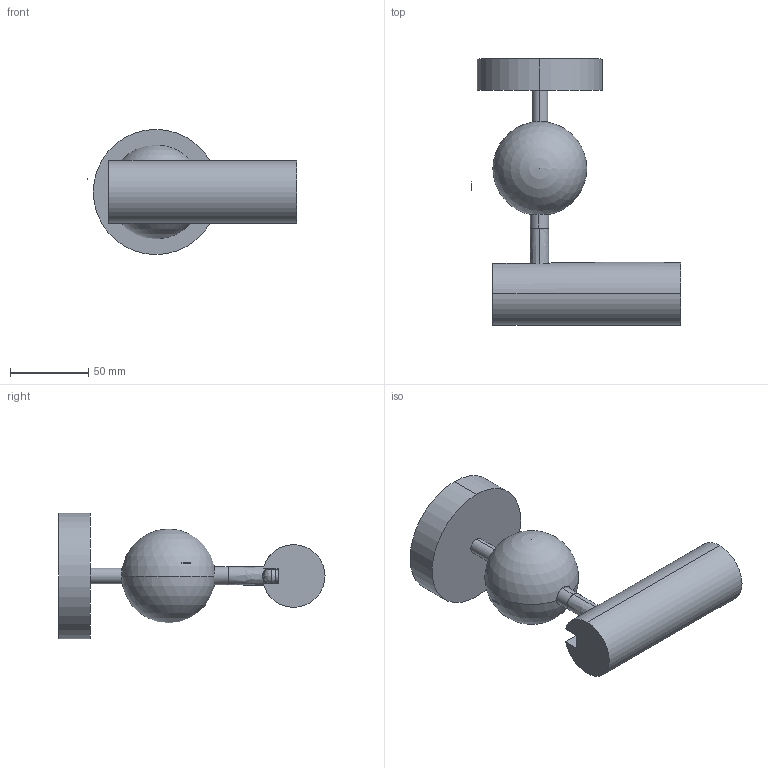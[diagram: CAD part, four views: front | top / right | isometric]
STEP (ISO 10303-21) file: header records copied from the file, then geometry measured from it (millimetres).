
FILE_DESCRIPTION (( 'STEP AP214' ), '1' );
FILE_NAME ('FOCO1_ROTULA.STEP', '2026-08-28T09:28:25', ( '' ), ( '' ), 'SwSTEP 2.0', 'SolidWorks 2023', '' );
FILE_SCHEMA (( 'AUTOMOTIVE_DESIGN' ));
Length unit declared in the file: millimetre
Products named in the file (3): FOCO1_ROTULA; rotula; foco1.1
Assembly tree (2 placements, depth 2):
  FOCO1_ROTULA
    foco1.1
    rotula
Bounding box: 133.81 x 170 x 80 mm (x, y, z)
Volume: 273458.4 mm3; surface area: 55400.4 mm2
Topology: 3 solids, 10 shells, 75 faces, 187 edges, 121 vertices
Faces by surface type: bspline 36, cylinder 18, plane 15, sphere 2, torus 2, cone 2
Entity records: 4032 total; most frequent: CARTESIAN_POINT 2522, ORIENTED_EDGE 350, EDGE_CURVE 178, DIRECTION 168, VERTEX_POINT 118, B_SPLINE_CURVE_WITH_KNOTS 92, EDGE_LOOP 85, ADVANCED_FACE 75
